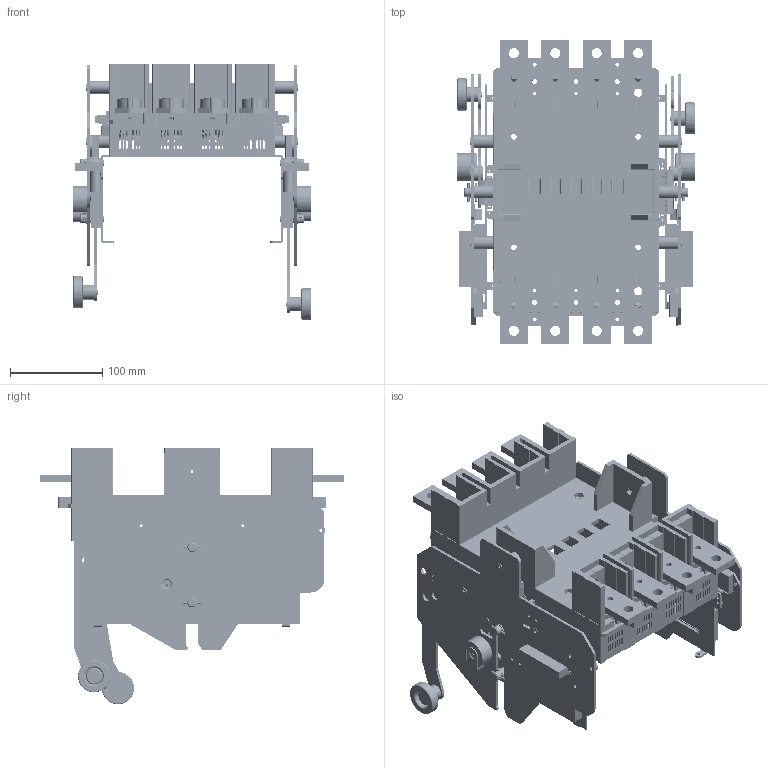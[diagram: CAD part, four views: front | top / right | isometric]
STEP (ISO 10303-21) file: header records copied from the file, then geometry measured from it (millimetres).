
FILE_DESCRIPTION (( 'STEP AP203' ), '1' );
FILE_NAME ('NDM5-630抽出式-板前-带端子 -四极.STEP', '2024-11-05T01:34:53', ( 'A' ), ( '' ), 'SwSTEP 2.0', 'SolidWorks 2018', '' );
FILE_SCHEMA (( 'CONFIG_CONTROL_DESIGN' ));
Length unit declared in the file: millimetre
Products named in the file (48): WL8.205.288-2; 揖芛630-5; WF8.024.769; WF8.205.717; 3WL8.050.NDM5-2; 槳啣1-2; 3WL8.135.020-2; WF8.724.502-2; WL8.024.770; 9憤狟傷赽; 3WF5.253.511-2; WF5.540; 揖芛630; WL8.100.258; WF5.540-3; 2WL5.024.200GG; 3WF8.253.532-2; 槳啣2-2; WL8.551.034; WF8.205.719-2; WF8.253.534-2; 揖芛630-2; WF5.540-2; 325.037; WL8.551.029; WF8.205.713-2; WF8.100.644-2; WF8.205.716-2; 3WF8.253.533-2; 3WL8.135.021-2; WF8.151.502-2; 幗渀2.5X20; WL8.300.044; 5憤狟傷赽; 3WL8.050.025-2; WF8.724.500; WF8.205.715-2; 耜啣2-2; 3WF8.024.779; 耜啣1-2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
Assembly tree (219 placements, depth 4):
  NDM5-630抽出式-板前-带端子 -四极
    揖芛630
      WL8.551.034  x20
      WL8.100.258
      WL8.551.029
    揖芛630-1
      WL8.551.034  x20
      WL8.100.258
      WL8.551.029
    揖芛630-2
      WL8.551.034  x20
      WL8.100.258
      WL8.551.029
    揖芛630-3
      WL8.551.034  x20
      WL8.100.258
      WL8.551.029
    揖芛630-4
      WL8.551.034  x20
      WL8.100.258
      WL8.551.029
    揖芛630-5
      WL8.551.034  x20
      WL8.100.258
      WL8.551.029
    槳啣1-2
      3WF5.253.511-2
        3WF8.253.532-2
        WF8.253.534-2
        WF8.205.716-2
        WF8.969.504-2
      3WL8.135.020-2
      WF8.205.713-2
      WF8.151.502-2
      WF8.205.715-2  x3
      3WF8.253.533-2
      WF8.724.502-2
      WF8.205.719-2
      WL8.024.770
      3WF8.024.779
    槳啣2-2
      3WF5.253.510-2
        3WF8.253.532-2
        WF8.253.534-2
        WF8.205.716-2
        WF8.969.504-2
      WF8.205.713-2
      WF8.151.502-2
      WF8.724.502-2
      WF8.205.719-2
      WL8.024.770
      3WF8.024.779
      3WL8.135.021-2
      WL8.205.288-2  x3
      3WF8.253.537-2
    耜啣2-2
      WF5.540
        WF8.205.717
        WF8.724.500
        幗渀2.5X20  x2
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Bounding box: 258 x 330 x 278.64 mm (x, y, z)
Volume: 1787422.9 mm3; surface area: 976739.1 mm2
Topology: 207 solids, 207 shells, 8568 faces, 23251 edges, 15284 vertices
Faces by surface type: plane 4646, cylinder 3610, torus 110, bspline 104, cone 92, sphere 6
Entity records: 122196 total; most frequent: CARTESIAN_POINT 22091, DIRECTION 19194, ORIENTED_EDGE 18716, EDGE_CURVE 9358, VECTOR 6506, LINE 6506, AXIS2_PLACEMENT_3D 6344, VERTEX_POINT 6105
